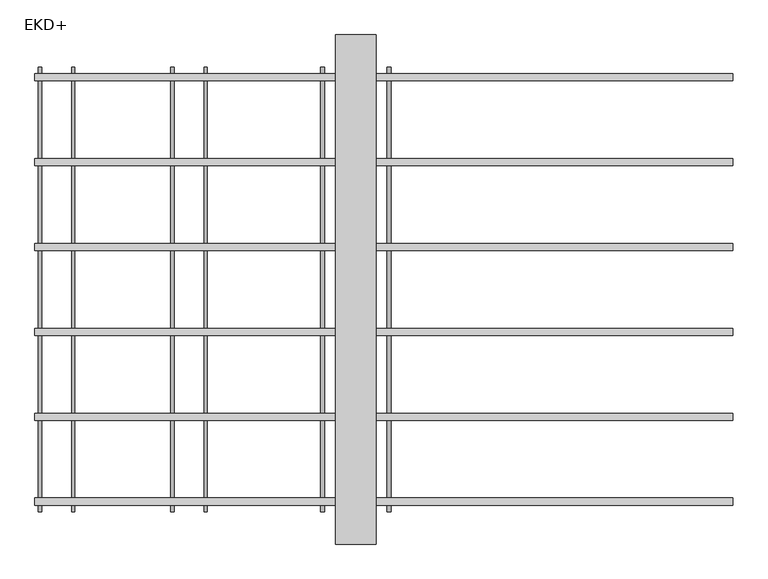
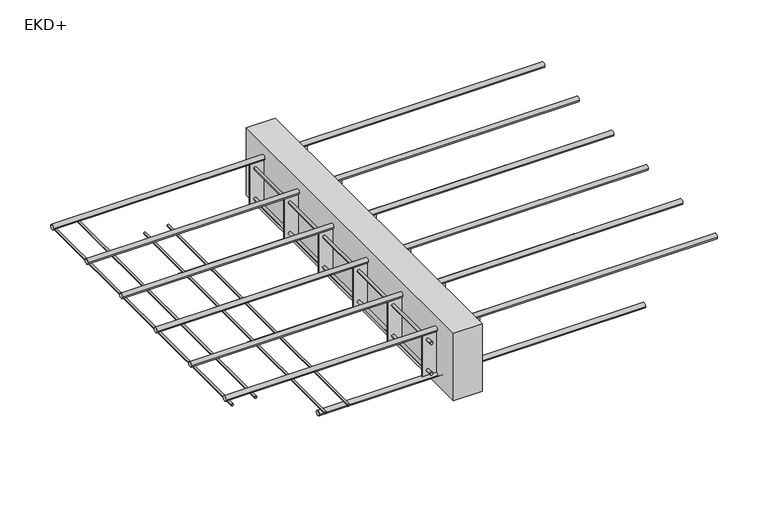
"""IFC4 building model written with IfcOpenShell, lengths in millimetres: proxy geometry, ACINOXplus_Typenreihe_EK : EKD+."""

from ifc_helpers import new_model, si_unit, point, frame, frame_2d, origin, place, context, project, spatial, polyline, circle_curve, trimmed, segment, composite_curve, outline, extrude, source, transform, mapped, element, save


def ekd_6c2b1949(model_context):
    return source(origin(), model_context, "Body", "SweptSolid", [
        extrude(outline(polyline([(40.0, 500.0), (40.0, -500.0), (-40.0, -500.0), (-40.0, 500.0), (40.0, 500.0)])), frame((0.0, 0.0, -200.0), z_axis=(0.0, 0.0, 1.0), x_axis=(1.0, 0.0, 0.0)), (0.0, 0.0, 1.0), 200.0),
        extrude(outline(polyline([(80.0, -248.5), (80.0, -251.5), (-80.0, -251.5), (-80.0, -248.5), (80.0, -248.5)])), frame((0.0, 0.0, -164.0), z_axis=(0.0, 0.0, 1.0), x_axis=(1.0, 0.0, 0.0)), (0.0, 0.0, 1.0), 120.0),
        extrude(outline(polyline([(80.0, -81.8333333), (80.0, -84.8333333), (-80.0, -84.8333333), (-80.0, -81.8333333), (80.0, -81.8333333)])), frame((0.0, 0.0, -164.0), z_axis=(0.0, 0.0, 1.0), x_axis=(1.0, 0.0, 0.0)), (0.0, 0.0, 1.0), 120.0),
        extrude(outline(polyline([(80.0, 84.8333333), (80.0, 81.8333333), (-80.0, 81.8333333), (-80.0, 84.8333333), (80.0, 84.8333333)])), frame((0.0, 0.0, -164.0), z_axis=(0.0, 0.0, 1.0), x_axis=(1.0, 0.0, 0.0)), (0.0, 0.0, 1.0), 120.0),
        extrude(outline(polyline([(80.0, 251.5), (80.0, 248.5), (-80.0, 248.5), (-80.0, 251.5), (80.0, 251.5)])), frame((0.0, 0.0, -164.0), z_axis=(0.0, 0.0, 1.0), x_axis=(1.0, 0.0, 0.0)), (0.0, 0.0, 1.0), 120.0),
        extrude(outline(polyline([(80.0, -415.1666667), (80.0, -418.1666667), (-80.0, -418.1666667), (-80.0, -415.1666667), (80.0, -415.1666667)])), frame((0.0, 0.0, -164.0), z_axis=(0.0, 0.0, 1.0), x_axis=(1.0, 0.0, 0.0)), (0.0, 0.0, 1.0), 120.0),
        extrude(outline(polyline([(80.0, 418.1666667), (80.0, 415.1666667), (-80.0, 415.1666667), (-80.0, 418.1666667), (80.0, 418.1666667)])), frame((0.0, 0.0, -164.0), z_axis=(0.0, 0.0, 1.0), x_axis=(1.0, 0.0, 0.0)), (0.0, 0.0, 1.0), 120.0),
        extrude(outline(composite_curve([segment(trimmed(circle_curve(frame_2d((-149.0, -65.0)), 4.0), [point((-149.0, -61.0))], [point((-149.0, -69.0))], False, "CARTESIAN"), True, "CONTINUOUS"), segment(trimmed(circle_curve(frame_2d((-149.0, -65.0)), 4.0), [point((-149.0, -69.0))], [point((-149.0, -61.0))], False, "CARTESIAN"), True, "CONTINUOUS")], self_intersect=False)), frame((0.0, -436.6666667, 0.0), z_axis=(0.0, 1.0, 0.0), x_axis=(0.0, 0.0, 1.0)), (0.0, 0.0, 1.0), 873.3333333),
        extrude(outline(composite_curve([segment(trimmed(circle_curve(frame_2d((-149.0, 65.0)), 4.0), [point((-149.0, 69.0))], [point((-149.0, 61.0))], False, "CARTESIAN"), True, "CONTINUOUS"), segment(trimmed(circle_curve(frame_2d((-149.0, 65.0)), 4.0), [point((-149.0, 61.0))], [point((-149.0, 69.0))], False, "CARTESIAN"), True, "CONTINUOUS")], self_intersect=False)), frame((0.0, -436.6666667, 0.0), z_axis=(0.0, 1.0, 0.0), x_axis=(0.0, 0.0, 1.0)), (0.0, 0.0, 1.0), 873.3333333),
        extrude(outline(composite_curve([segment(trimmed(circle_curve(frame_2d((-59.0, -65.0)), 4.0), [point((-59.0, -61.0))], [point((-59.0, -69.0))], False, "CARTESIAN"), True, "CONTINUOUS"), segment(trimmed(circle_curve(frame_2d((-59.0, -65.0)), 4.0), [point((-59.0, -69.0))], [point((-59.0, -61.0))], False, "CARTESIAN"), True, "CONTINUOUS")], self_intersect=False)), frame((0.0, -436.6666667, 0.0), z_axis=(0.0, 1.0, 0.0), x_axis=(0.0, 0.0, 1.0)), (0.0, 0.0, 1.0), 873.3333333),
        extrude(outline(composite_curve([segment(trimmed(circle_curve(frame_2d((-59.0, 65.0)), 4.0), [point((-59.0, 69.0))], [point((-59.0, 61.0))], False, "CARTESIAN"), True, "CONTINUOUS"), segment(trimmed(circle_curve(frame_2d((-59.0, 65.0)), 4.0), [point((-59.0, 61.0))], [point((-59.0, 69.0))], False, "CARTESIAN"), True, "CONTINUOUS")], self_intersect=False)), frame((0.0, -436.6666667, 0.0), z_axis=(0.0, 1.0, 0.0), x_axis=(0.0, 0.0, 1.0)), (0.0, 0.0, 1.0), 873.3333333),
        extrude(outline(composite_curve([segment(trimmed(circle_curve(frame_2d((83.3333333, -171.0)), 7.0), [point((76.3333333, -171.0))], [point((90.3333333, -171.0))], False, "CARTESIAN"), True, "CONTINUOUS"), segment(trimmed(circle_curve(frame_2d((83.3333333, -171.0)), 7.0), [point((90.3333333, -171.0))], [point((76.3333333, -171.0))], False, "CARTESIAN"), True, "CONTINUOUS")], self_intersect=False)), frame((-370.0, 0.0, 0.0), z_axis=(1.0, 0.0, 0.0), x_axis=(0.0, 1.0, 0.0)), (0.0, 0.0, 1.0), 910.0),
        extrude(outline(composite_curve([segment(trimmed(circle_curve(frame_2d((-83.3333333, -171.0)), 7.0), [point((-90.3333333, -171.0))], [point((-76.3333333, -171.0))], False, "CARTESIAN"), True, "CONTINUOUS"), segment(trimmed(circle_curve(frame_2d((-83.3333333, -171.0)), 7.0), [point((-76.3333333, -171.0))], [point((-90.3333333, -171.0))], False, "CARTESIAN"), True, "CONTINUOUS")], self_intersect=False)), frame((-370.0, 0.0, 0.0), z_axis=(1.0, 0.0, 0.0), x_axis=(0.0, 1.0, 0.0)), (0.0, 0.0, 1.0), 910.0),
        extrude(outline(composite_curve([segment(trimmed(circle_curve(frame_2d((250.0, -171.0)), 7.0), [point((243.0, -171.0))], [point((257.0, -171.0))], False, "CARTESIAN"), True, "CONTINUOUS"), segment(trimmed(circle_curve(frame_2d((250.0, -171.0)), 7.0), [point((257.0, -171.0))], [point((243.0, -171.0))], False, "CARTESIAN"), True, "CONTINUOUS")], self_intersect=False)), frame((-370.0, 0.0, 0.0), z_axis=(1.0, 0.0, 0.0), x_axis=(0.0, 1.0, 0.0)), (0.0, 0.0, 1.0), 910.0),
        extrude(outline(composite_curve([segment(trimmed(circle_curve(frame_2d((416.6666667, -171.0)), 7.0), [point((409.6666667, -171.0))], [point((423.6666667, -171.0))], False, "CARTESIAN"), True, "CONTINUOUS"), segment(trimmed(circle_curve(frame_2d((416.6666667, -171.0)), 7.0), [point((423.6666667, -171.0))], [point((409.6666667, -171.0))], False, "CARTESIAN"), True, "CONTINUOUS")], self_intersect=False)), frame((-370.0, 0.0, 0.0), z_axis=(1.0, 0.0, 0.0), x_axis=(0.0, 1.0, 0.0)), (0.0, 0.0, 1.0), 910.0),
        extrude(outline(composite_curve([segment(trimmed(circle_curve(frame_2d((-250.0, -171.0)), 7.0), [point((-257.0, -171.0))], [point((-243.0, -171.0))], False, "CARTESIAN"), True, "CONTINUOUS"), segment(trimmed(circle_curve(frame_2d((-250.0, -171.0)), 7.0), [point((-243.0, -171.0))], [point((-257.0, -171.0))], False, "CARTESIAN"), True, "CONTINUOUS")], self_intersect=False)), frame((-370.0, 0.0, 0.0), z_axis=(1.0, 0.0, 0.0), x_axis=(0.0, 1.0, 0.0)), (0.0, 0.0, 1.0), 910.0),
        extrude(outline(composite_curve([segment(trimmed(circle_curve(frame_2d((-416.6666667, -171.0)), 7.0), [point((-423.6666667, -171.0))], [point((-409.6666667, -171.0))], False, "CARTESIAN"), True, "CONTINUOUS"), segment(trimmed(circle_curve(frame_2d((-416.6666667, -171.0)), 7.0), [point((-409.6666667, -171.0))], [point((-423.6666667, -171.0))], False, "CARTESIAN"), True, "CONTINUOUS")], self_intersect=False)), frame((-370.0, 0.0, 0.0), z_axis=(1.0, 0.0, 0.0), x_axis=(0.0, 1.0, 0.0)), (0.0, 0.0, 1.0), 910.0),
        extrude(outline(composite_curve([segment(trimmed(circle_curve(frame_2d((83.3333333, -37.0)), 7.0), [point((76.3333333, -37.0))], [point((90.3333333, -37.0))], False, "CARTESIAN"), True, "CONTINUOUS"), segment(trimmed(circle_curve(frame_2d((83.3333333, -37.0)), 7.0), [point((90.3333333, -37.0))], [point((76.3333333, -37.0))], False, "CARTESIAN"), True, "CONTINUOUS")], self_intersect=False)), frame((-630.0, 0.0, 0.0), z_axis=(1.0, 0.0, 0.0), x_axis=(0.0, 1.0, 0.0)), (0.0, 0.0, 1.0), 1370.0),
        extrude(outline(composite_curve([segment(trimmed(circle_curve(frame_2d((-83.3333333, -37.0)), 7.0), [point((-90.3333333, -37.0))], [point((-76.3333333, -37.0))], False, "CARTESIAN"), True, "CONTINUOUS"), segment(trimmed(circle_curve(frame_2d((-83.3333333, -37.0)), 7.0), [point((-76.3333333, -37.0))], [point((-90.3333333, -37.0))], False, "CARTESIAN"), True, "CONTINUOUS")], self_intersect=False)), frame((-630.0, 0.0, 0.0), z_axis=(1.0, 0.0, 0.0), x_axis=(0.0, 1.0, 0.0)), (0.0, 0.0, 1.0), 1370.0),
        extrude(outline(composite_curve([segment(trimmed(circle_curve(frame_2d((250.0, -37.0)), 7.0), [point((243.0, -37.0))], [point((257.0, -37.0))], False, "CARTESIAN"), True, "CONTINUOUS"), segment(trimmed(circle_curve(frame_2d((250.0, -37.0)), 7.0), [point((257.0, -37.0))], [point((243.0, -37.0))], False, "CARTESIAN"), True, "CONTINUOUS")], self_intersect=False)), frame((-630.0, 0.0, 0.0), z_axis=(1.0, 0.0, 0.0), x_axis=(0.0, 1.0, 0.0)), (0.0, 0.0, 1.0), 1370.0),
        extrude(outline(composite_curve([segment(trimmed(circle_curve(frame_2d((416.6666667, -37.0)), 7.0), [point((409.6666667, -37.0))], [point((423.6666667, -37.0))], False, "CARTESIAN"), True, "CONTINUOUS"), segment(trimmed(circle_curve(frame_2d((416.6666667, -37.0)), 7.0), [point((423.6666667, -37.0))], [point((409.6666667, -37.0))], False, "CARTESIAN"), True, "CONTINUOUS")], self_intersect=False)), frame((-630.0, 0.0, 0.0), z_axis=(1.0, 0.0, 0.0), x_axis=(0.0, 1.0, 0.0)), (0.0, 0.0, 1.0), 1370.0),
        extrude(outline(composite_curve([segment(trimmed(circle_curve(frame_2d((-250.0, -37.0)), 7.0), [point((-257.0, -37.0))], [point((-243.0, -37.0))], False, "CARTESIAN"), True, "CONTINUOUS"), segment(trimmed(circle_curve(frame_2d((-250.0, -37.0)), 7.0), [point((-243.0, -37.0))], [point((-257.0, -37.0))], False, "CARTESIAN"), True, "CONTINUOUS")], self_intersect=False)), frame((-630.0, 0.0, 0.0), z_axis=(1.0, 0.0, 0.0), x_axis=(0.0, 1.0, 0.0)), (0.0, 0.0, 1.0), 1370.0),
        extrude(outline(composite_curve([segment(trimmed(circle_curve(frame_2d((-416.6666667, -37.0)), 7.0), [point((-423.6666667, -37.0))], [point((-409.6666667, -37.0))], False, "CARTESIAN"), True, "CONTINUOUS"), segment(trimmed(circle_curve(frame_2d((-416.6666667, -37.0)), 7.0), [point((-409.6666667, -37.0))], [point((-423.6666667, -37.0))], False, "CARTESIAN"), True, "CONTINUOUS")], self_intersect=False)), frame((-630.0, 0.0, 0.0), z_axis=(1.0, 0.0, 0.0), x_axis=(0.0, 1.0, 0.0)), (0.0, 0.0, 1.0), 1370.0),
        extrude(outline(composite_curve([segment(trimmed(circle_curve(frame_2d((-161.0, -360.0)), 3.0), [point((-161.0, -357.0))], [point((-161.0, -363.0))], False, "CARTESIAN"), True, "CONTINUOUS"), segment(trimmed(circle_curve(frame_2d((-161.0, -360.0)), 3.0), [point((-161.0, -363.0))], [point((-161.0, -357.0))], False, "CARTESIAN"), True, "CONTINUOUS")], self_intersect=False)), frame((0.0, -436.6666667, 0.0), z_axis=(0.0, 1.0, 0.0), x_axis=(0.0, 0.0, 1.0)), (0.0, 0.0, 1.0), 873.3333333),
        extrude(outline(composite_curve([segment(trimmed(circle_curve(frame_2d((-161.0, -295.0)), 3.0), [point((-161.0, -292.0))], [point((-161.0, -298.0))], False, "CARTESIAN"), True, "CONTINUOUS"), segment(trimmed(circle_curve(frame_2d((-161.0, -295.0)), 3.0), [point((-161.0, -298.0))], [point((-161.0, -292.0))], False, "CARTESIAN"), True, "CONTINUOUS")], self_intersect=False)), frame((0.0, -436.6666667, 0.0), z_axis=(0.0, 1.0, 0.0), x_axis=(0.0, 0.0, 1.0)), (0.0, 0.0, 1.0), 873.3333333),
        extrude(outline(composite_curve([segment(trimmed(circle_curve(frame_2d((-47.0, -620.0)), 3.0), [point((-47.0, -617.0))], [point((-47.0, -623.0))], False, "CARTESIAN"), True, "CONTINUOUS"), segment(trimmed(circle_curve(frame_2d((-47.0, -620.0)), 3.0), [point((-47.0, -623.0))], [point((-47.0, -617.0))], False, "CARTESIAN"), True, "CONTINUOUS")], self_intersect=False)), frame((0.0, -436.6666667, 0.0), z_axis=(0.0, 1.0, 0.0), x_axis=(0.0, 0.0, 1.0)), (0.0, 0.0, 1.0), 873.3333333),
        extrude(outline(composite_curve([segment(trimmed(circle_curve(frame_2d((-47.0, -555.0)), 3.0), [point((-47.0, -552.0))], [point((-47.0, -558.0))], False, "CARTESIAN"), True, "CONTINUOUS"), segment(trimmed(circle_curve(frame_2d((-47.0, -555.0)), 3.0), [point((-47.0, -558.0))], [point((-47.0, -552.0))], False, "CARTESIAN"), True, "CONTINUOUS")], self_intersect=False)), frame((0.0, -436.6666667, 0.0), z_axis=(0.0, 1.0, 0.0), x_axis=(0.0, 0.0, 1.0)), (0.0, 0.0, 1.0), 873.3333333),
    ])


if __name__ == "__main__":
    model = new_model("IFC4")
    model_context = context("Model", 3, world=origin())
    ifc_project = project(units=[si_unit("LENGTHUNIT", "METRE", prefix="MILLI")], contexts=[model_context])
    site = spatial("IfcSite", under=ifc_project)
    building = spatial("IfcBuilding", under=site)
    placement = place(None, origin())
    ekd_shape = ekd_6c2b1949(model_context)
    element("IfcBuildingElementProxy", 1, Name="ACINOXplus_Typenreihe_EK : EKD+", ObjectType="ACINOXplus_Typenreihe_EK : EKD+", at=placement, inside=building, context=model_context, shape_type="MappedRepresentation", body=[
        mapped(ekd_shape, transform((0.0, 0.0, 0.0), x_axis=(1.0, 0.0, 0.0), y_axis=(0.0, 1.0, 0.0), z_axis=(0.0, 0.0, 1.0))),
    ])
    save(model, "model.ifc")
